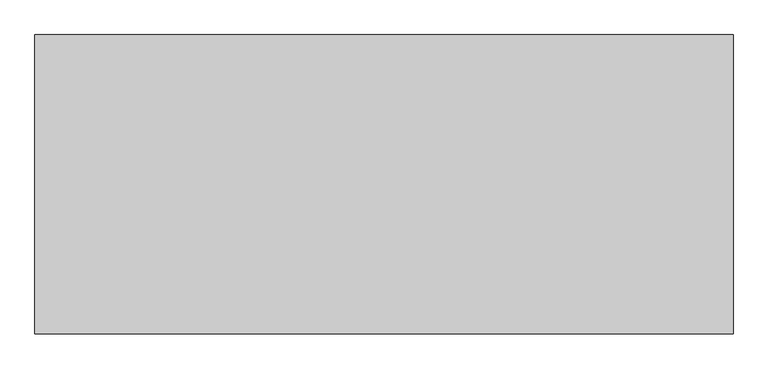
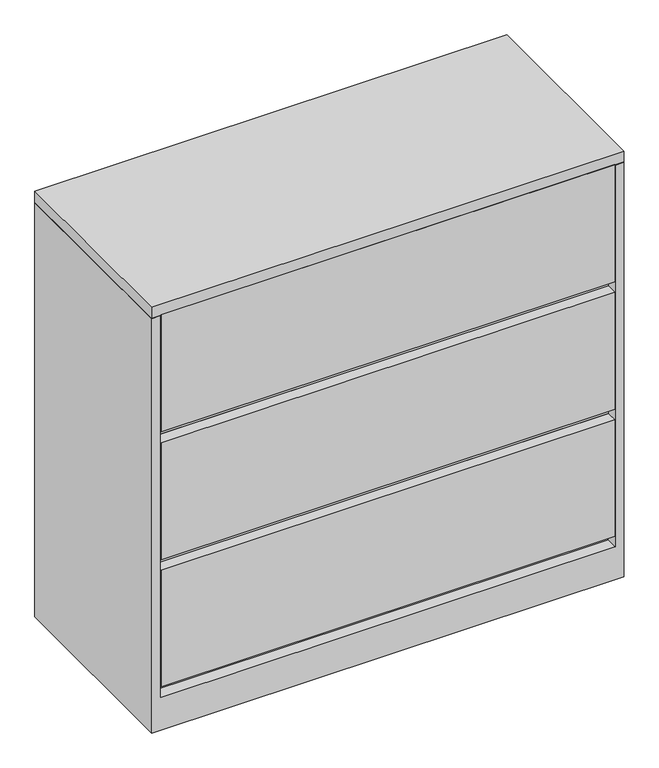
"""IFC4 building model written with IfcOpenShell, lengths in millimetres: furniture geometry, Steelcase - 900 Series - Storage - Lateral File With Roll Out Shelf - Flush Steel : 40H x 42W."""

from ifc_helpers import new_model, si_unit, frame, origin, place, context, project, spatial, polyline, outline, extrude, faceted_brep, source, transform, mapped, element, save


def furniture_c6682296(model_context):
    return source(origin(), model_context, "Body", "SolidModel", [
        faceted_brep([(1047.4960184, -25.2721219, 989.076), (1047.4960184, -457.2, 989.076), (1066.8, -457.2, 989.076), (1066.8, 0.0, 989.076), (0.0, 0.0, 989.076), (0.0, -457.2, 989.076), (19.3039998, -457.2, 989.076), (19.3039998, -25.2721219, 989.076), (0.0, -457.2, 0.0), (0.0, 0.0, 0.0), (1066.8, 0.0, 0.0), (1066.8, -457.2, 0.0), (1047.4960184, -25.2721219, 406.7048), (1047.4960184, -431.800255, 406.7048), (1047.4960184, -431.800255, 381.254), (1047.4960184, -25.2721219, 381.254), (1047.4960184, -25.2721219, 103.3780013), (1047.4960184, -430.275847, 103.3780013), (1047.4960184, -430.275847, 77.9779983), (1047.4960184, -457.2, 77.9779983), (19.3039998, -457.2, 77.9779983), (19.3039998, -430.275847, 77.9779983), (19.3039998, -430.275847, 103.3780013), (19.3039998, -25.2721219, 103.3780013), (19.3039998, -25.2721219, 381.254), (19.3039998, -431.800255, 381.254), (19.3039998, -431.800255, 406.7048), (19.3039998, -25.2721219, 406.7048)], [[[0, 1, 2, 3, 4, 5, 6, 7]], [[8, 9, 10, 11]], [[1, 0, 12, 13, 14, 15, 16, 17, 18, 19]], [[2, 1, 19, 20, 6, 5, 8, 11]], [[3, 2, 11, 10]], [[4, 3, 10, 9]], [[5, 4, 9, 8]], [[7, 6, 20, 21, 22, 23, 24, 25, 26, 27]], [[0, 7, 27, 12]], [[16, 15, 24, 23]], [[18, 21, 20, 19]], [[22, 17, 16, 23]], [[21, 18, 17, 22]], [[26, 13, 12, 27]], [[13, 26, 25, 14]], [[14, 25, 24, 15]]]),
        extrude(outline(polyline([(1047.4960184, -25.2721219), (1047.4960184, -431.800255), (19.3039998, -431.800255), (19.3039998, -25.2721219), (1047.4960184, -25.2721219)])), frame((0.0, 0.0, 686.1048), z_axis=(0.0, 0.0, 1.0), x_axis=(1.0, 0.0, 0.0)), (0.0, 0.0, 1.0), 25.4),
        extrude(outline(polyline([(1045.9722015, -457.2), (20.8289612, -457.2), (20.8289612, -431.800255), (1045.9722015, -431.800255), (1045.9722015, -457.2)])), frame((0.0, 0.0, 711.5048), z_axis=(0.0, 0.0, 1.0), x_axis=(1.0, 0.0, 0.0)), (0.0, 0.0, 1.0), 279.4),
        faceted_brep([(1066.8, 0.0, 1016.0), (0.0, 0.0, 1016.0), (0.0, -457.2, 1016.0), (1066.8, -457.2, 1016.0), (1066.8, 0.0, 990.5999516), (1066.8, -457.2, 990.5999516), (0.0, -457.2, 990.5999516), (0.0, 0.0, 990.5999516), (1047.4960184, -25.2721219, 990.5999516), (20.8289612, -25.2721219, 990.5999516), (20.8289612, -415.9241219, 990.5999516), (1047.4960184, -415.9241219, 990.5999516), (1047.4960184, -25.2721219, 989.076), (1047.4960184, -415.9241219, 989.076), (20.8289612, -415.9241219, 989.076), (20.8289612, -25.2721219, 989.076)], [[[0, 1, 2, 3]], [[4, 5, 6, 7], [8, 9, 10, 11]], [[1, 0, 4, 7]], [[2, 1, 7, 6]], [[3, 2, 6, 5]], [[0, 3, 5, 4]], [[12, 13, 14, 15]], [[12, 15, 9, 8]], [[15, 14, 10, 9]], [[14, 13, 11, 10]], [[13, 12, 8, 11]]]),
        extrude(outline(polyline([(1045.9722015, -457.2), (20.8289612, -457.2), (20.8289612, -431.800255), (1045.9722015, -431.800255), (1045.9722015, -457.2)])), frame((0.0, 0.0, 103.3780013), z_axis=(0.0, 0.0, 1.0), x_axis=(1.0, 0.0, 0.0)), (0.0, 0.0, 1.0), 277.8759987),
        extrude(outline(polyline([(1045.9722015, -457.2), (20.8289612, -457.2), (20.8289612, -431.800255), (1045.9722015, -431.800255), (1045.9722015, -457.2)])), frame((0.0, 0.0, 406.7048), z_axis=(0.0, 0.0, 1.0), x_axis=(1.0, 0.0, 0.0)), (0.0, 0.0, 1.0), 279.4),
    ])


if __name__ == "__main__":
    model = new_model("IFC4")
    model_context = context("Model", 3, world=origin())
    ifc_project = project(units=[si_unit("LENGTHUNIT", "METRE", prefix="MILLI")], contexts=[model_context])
    site = spatial("IfcSite", under=ifc_project)
    building = spatial("IfcBuilding", under=site)
    placement = place(None, origin())
    furniture_shape = furniture_c6682296(model_context)
    element("IfcFurniture", 1, ObjectType="Steelcase - 900 Series - Storage - Lateral File With Roll Out Shelf - Flush Steel : 40H x 42W", at=placement, inside=building, context=model_context, shape_type="MappedRepresentation", body=[
        mapped(furniture_shape, transform((0.0, 0.0, 0.0), x_axis=(1.0, 0.0, 0.0), y_axis=(0.0, 1.0, 0.0), z_axis=(0.0, 0.0, 1.0))),
    ])
    save(model, "model.ifc")
